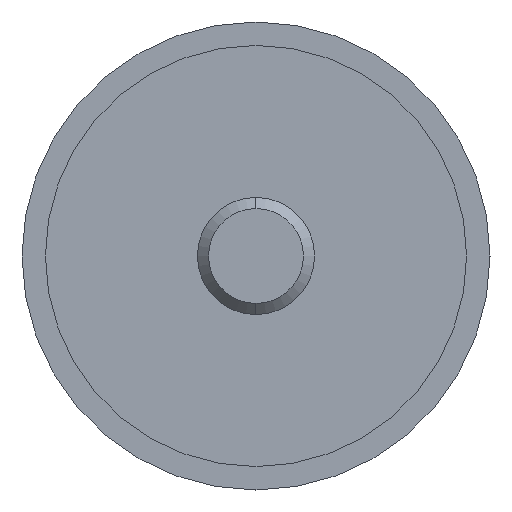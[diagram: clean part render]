
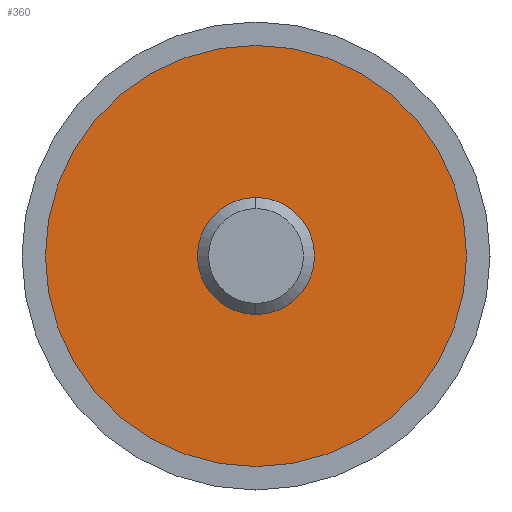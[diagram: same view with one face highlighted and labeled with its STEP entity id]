
A CAD part, left-side view. The second image highlights one B-rep face of the part: STEP entity #360.
In plain terms, the highlighted planar face has unit normal (-1, 0, 0).
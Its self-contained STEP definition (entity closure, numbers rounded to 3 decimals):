
#4 = FACE_OUTER_BOUND ( 'NONE', #102, .T. ) ;
#17 = DIRECTION ( 'NONE',  ( 0., 0., 1. ) ) ;
#54 = DIRECTION ( 'NONE',  ( 1., 0., 0. ) ) ;
#55 = CARTESIAN_POINT ( 'NONE',  ( -12.49, 0., 0. ) ) ;
#63 = CIRCLE ( 'NONE', #109, 18. ) ;
#75 = CARTESIAN_POINT ( 'NONE',  ( -12.49, 0., 0. ) ) ;
#80 = AXIS2_PLACEMENT_3D ( 'NONE', #55, #649, #599 ) ;
#102 = EDGE_LOOP ( 'NONE', ( #495, #653 ) ) ;
#109 = AXIS2_PLACEMENT_3D ( 'NONE', #75, #295, #17 ) ;
#110 = DIRECTION ( 'NONE',  ( -1., 0., 0. ) ) ;
#134 = VERTEX_POINT ( 'NONE', #327 ) ;
#162 = EDGE_CURVE ( 'NONE', #134, #273, #396, .T. ) ;
#188 = EDGE_CURVE ( 'NONE', #654, #361, #197, .T. ) ;
#191 = AXIS2_PLACEMENT_3D ( 'NONE', #378, #110, #583 ) ;
#197 = CIRCLE ( 'NONE', #80, 5. ) ;
#207 = AXIS2_PLACEMENT_3D ( 'NONE', #210, #526, #419 ) ;
#210 = CARTESIAN_POINT ( 'NONE',  ( -12.49, 0., 0. ) ) ;
#217 = CARTESIAN_POINT ( 'NONE',  ( -12.49, 18., 0. ) ) ;
#218 = EDGE_CURVE ( 'NONE', #273, #134, #63, .T. ) ;
#222 = CARTESIAN_POINT ( 'NONE',  ( -12.49, 0., 5. ) ) ;
#231 = CARTESIAN_POINT ( 'NONE',  ( -12.49, 0., -5. ) ) ;
#254 = ORIENTED_EDGE ( 'NONE', *, *, #321, .F. ) ;
#273 = VERTEX_POINT ( 'NONE', #521 ) ;
#285 = DIRECTION ( 'NONE',  ( 0., 0., -1. ) ) ;
#295 = DIRECTION ( 'NONE',  ( -1., 0., 0. ) ) ;
#315 = CIRCLE ( 'NONE', #191, 5. ) ;
#321 = EDGE_CURVE ( 'NONE', #361, #654, #315, .T. ) ;
#327 = CARTESIAN_POINT ( 'NONE',  ( -12.49, 0., -18. ) ) ;
#340 = EDGE_LOOP ( 'NONE', ( #254, #498 ) ) ;
#360 = ADVANCED_FACE ( 'NONE', ( #4, #524 ), #581, .F. ) ;
#361 = VERTEX_POINT ( 'NONE', #222 ) ;
#378 = CARTESIAN_POINT ( 'NONE',  ( -12.49, 0., 0. ) ) ;
#396 = CIRCLE ( 'NONE', #207, 18. ) ;
#419 = DIRECTION ( 'NONE',  ( 0., 0., 1. ) ) ;
#491 = AXIS2_PLACEMENT_3D ( 'NONE', #217, #54, #285 ) ;
#495 = ORIENTED_EDGE ( 'NONE', *, *, #218, .T. ) ;
#498 = ORIENTED_EDGE ( 'NONE', *, *, #188, .F. ) ;
#521 = CARTESIAN_POINT ( 'NONE',  ( -12.49, 0., 18. ) ) ;
#524 = FACE_BOUND ( 'NONE', #340, .T. ) ;
#526 = DIRECTION ( 'NONE',  ( -1., 0., 0. ) ) ;
#581 = PLANE ( 'NONE',  #491 ) ;
#583 = DIRECTION ( 'NONE',  ( 0., 0., -1. ) ) ;
#599 = DIRECTION ( 'NONE',  ( 0., 0., -1. ) ) ;
#649 = DIRECTION ( 'NONE',  ( -1., 0., 0. ) ) ;
#653 = ORIENTED_EDGE ( 'NONE', *, *, #162, .T. ) ;
#654 = VERTEX_POINT ( 'NONE', #231 ) ;
